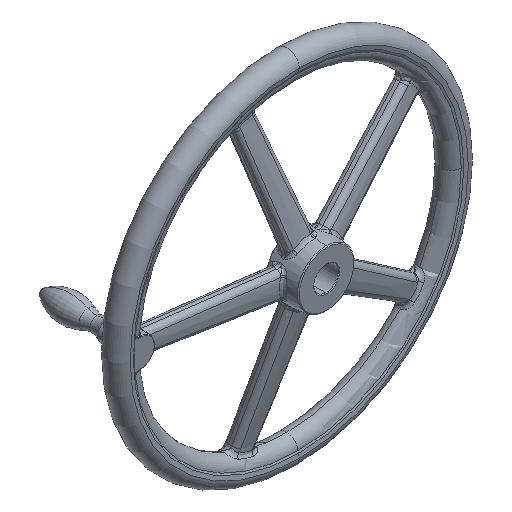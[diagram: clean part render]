
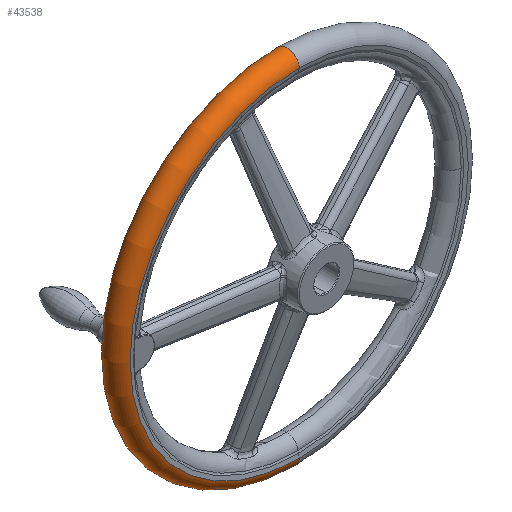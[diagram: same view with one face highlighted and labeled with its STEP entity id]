
A CAD part, isometric view. The second image highlights one B-rep face of the part: STEP entity #43538.
In plain terms, the highlighted toroidal (fillet/blend) face has major radius 232.939 mm and minor radius 17.061 mm.
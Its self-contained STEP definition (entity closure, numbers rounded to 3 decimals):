
#22451 = ORIENTED_EDGE ( 'NONE', *, *, #35057, .T. ) ;
#30590 = ORIENTED_EDGE ( 'NONE', *, *, #33139, .T. ) ;
#30676 = EDGE_CURVE ( 'NONE', #30723, #30717, #33619, .T. ) ;
#30717 = VERTEX_POINT ( 'NONE', #34044 ) ;
#30723 = VERTEX_POINT ( 'NONE', #34039 ) ;
#32933 = EDGE_CURVE ( 'NONE', #34914, #30723, #36505, .T. ) ;
#33139 = EDGE_CURVE ( 'NONE', #34895, #30717, #36615, .T. ) ;
#33203 = ORIENTED_EDGE ( 'NONE', *, *, #30676, .F. ) ;
#33616 = CARTESIAN_POINT ( 'NONE',  ( 0., 38., 0. ) ) ;
#33619 = CIRCLE ( 'NONE', #33620, 234.378 ) ;
#33620 = AXIS2_PLACEMENT_3D ( 'NONE', #33616, #33639, #33638 ) ;
#33638 = DIRECTION ( 'NONE',  ( 0., 0., -1. ) ) ;
#33639 = DIRECTION ( 'NONE',  ( 0., -1., 0. ) ) ;
#34039 = CARTESIAN_POINT ( 'NONE',  ( 0., 38., 234.378 ) ) ;
#34044 = CARTESIAN_POINT ( 'NONE',  ( 0., 38., -234.378 ) ) ;
#34895 = VERTEX_POINT ( 'NONE', #39456 ) ;
#34914 = VERTEX_POINT ( 'NONE', #39431 ) ;
#35057 = EDGE_CURVE ( 'NONE', #34914, #34895, #40009, .T. ) ;
#36493 = DIRECTION ( 'NONE',  ( 0., 0., -1. ) ) ;
#36494 = DIRECTION ( 'NONE',  ( 1., 0., 0. ) ) ;
#36495 = CARTESIAN_POINT ( 'NONE',  ( 0., 55., 232.939 ) ) ;
#36497 = AXIS2_PLACEMENT_3D ( 'NONE', #36714, #36713, #36711 ) ;
#36500 = AXIS2_PLACEMENT_3D ( 'NONE', #36495, #36494, #36493 ) ;
#36505 = CIRCLE ( 'NONE', #36500, 17.061 ) ;
#36615 = CIRCLE ( 'NONE', #36497, 17.061 ) ;
#36711 = DIRECTION ( 'NONE',  ( 0., 0., 1. ) ) ;
#36713 = DIRECTION ( 'NONE',  ( -1., 0., 0. ) ) ;
#36714 = CARTESIAN_POINT ( 'NONE',  ( 0., 55., -232.939 ) ) ;
#39431 = CARTESIAN_POINT ( 'NONE',  ( 0., 72., 234.378 ) ) ;
#39456 = CARTESIAN_POINT ( 'NONE',  ( 0., 72., -234.378 ) ) ;
#40009 = CIRCLE ( 'NONE', #40048, 234.378 ) ;
#40037 = DIRECTION ( 'NONE',  ( 0., 0., -1. ) ) ;
#40038 = DIRECTION ( 'NONE',  ( 0., -1., 0. ) ) ;
#40039 = CARTESIAN_POINT ( 'NONE',  ( 0., 72., 0. ) ) ;
#40048 = AXIS2_PLACEMENT_3D ( 'NONE', #40039, #40038, #40037 ) ;
#41206 = TOROIDAL_SURFACE ( 'NONE', #41209, 232.939, 17.061 ) ;
#41208 = CARTESIAN_POINT ( 'NONE',  ( 0., 55., 0. ) ) ;
#41209 = AXIS2_PLACEMENT_3D ( 'NONE', #41208, #41275, #41274 ) ;
#41215 = FACE_OUTER_BOUND ( 'NONE', #43510, .T. ) ;
#41274 = DIRECTION ( 'NONE',  ( 0., 0., -1. ) ) ;
#41275 = DIRECTION ( 'NONE',  ( 0., -1., 0. ) ) ;
#43510 = EDGE_LOOP ( 'NONE', ( #43521, #22451, #30590, #33203 ) ) ;
#43521 = ORIENTED_EDGE ( 'NONE', *, *, #32933, .F. ) ;
#43538 = ADVANCED_FACE ( 'NONE', ( #41215 ), #41206, .T. ) ;
